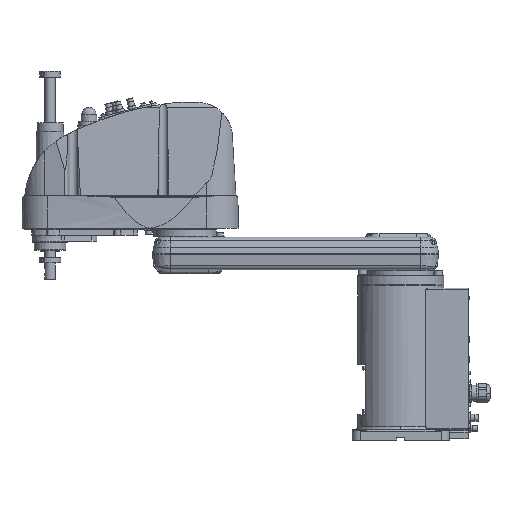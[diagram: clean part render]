
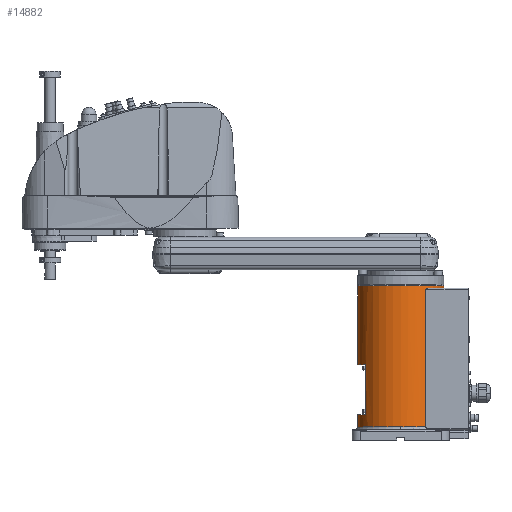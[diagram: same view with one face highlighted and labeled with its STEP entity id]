
A CAD part, top view. The second image highlights one B-rep face of the part: STEP entity #14882.
In plain terms, the highlighted cylindrical face has radius 80 mm (diameter 160 mm), a partial arc.
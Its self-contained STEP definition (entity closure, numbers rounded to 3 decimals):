
#8062 = EDGE_CURVE( '', #8162, #8850, #23895, .T. );
#8148 = EDGE_CURVE( '', #9622, #17762, #23995, .T. );
#8162 = VERTEX_POINT( '', #24010 );
#8820 = EDGE_CURVE( '', #8850, #13574, #24752, .T. );
#8850 = VERTEX_POINT( '', #24786 );
#9086 = EDGE_CURVE( '', #14868, #13366, #25050, .T. );
#9408 = EDGE_CURVE( '', #14898, #14868, #25401, .T. );
#9622 = VERTEX_POINT( '', #25642 );
#11054 = VERTEX_POINT( '', #27232 );
#12434 = EDGE_CURVE( '', #20854, #9622, #28798, .T. );
#13366 = VERTEX_POINT( '', #29838 );
#13574 = VERTEX_POINT( '', #30064 );
#13730 = EDGE_CURVE( '', #17354, #11054, #30238, .T. );
#14868 = VERTEX_POINT( '', #31506 );
#14882 = ADVANCED_FACE( '', ( #31520 ), #31521, .T. );
#14898 = VERTEX_POINT( '', #31542 );
#17060 = VERTEX_POINT( '', #33960 );
#17294 = EDGE_CURVE( '', #20854, #17060, #34217, .T. );
#17354 = VERTEX_POINT( '', #34288 );
#17762 = VERTEX_POINT( '', #34735 );
#17814 = EDGE_CURVE( '', #11054, #8162, #34797, .T. );
#17824 = EDGE_CURVE( '', #17762, #14898, #34809, .T. );
#19548 = EDGE_CURVE( '', #13574, #17060, #36740, .T. );
#20854 = VERTEX_POINT( '', #38189 );
#23274 = EDGE_CURVE( '', #13366, #17354, #40866, .T. );
#23895 = B_SPLINE_CURVE_WITH_KNOTS( '', 3, ( #41568, #41569, #41570, #41571, #41572, #41573, #41574, #41575, #41576, #41577, #41578, #41579, #41580, #41581, #41582, #41583 ), .UNSPECIFIED., .F., .F., ( 4, 2, 2, 2, 2, 2, 2, 4 ), ( 0., 0.565, 1.13, 1.695, 2.26, 4.16, 5.11, 6.06 ), .UNSPECIFIED. );
#23995 = CIRCLE( '', #41717, 80. );
#24010 = CARTESIAN_POINT( '', ( 46.637, 279., 65. ) );
#24752 = CIRCLE( '', #42873, 80. );
#24786 = CARTESIAN_POINT( '', ( 50.557, 282., 62. ) );
#25050 = LINE( '', #43402, #43403 );
#25401 = CIRCLE( '', #43909, 80. );
#25642 = CARTESIAN_POINT( '', ( -80., 140.5, 0. ) );
#27232 = CARTESIAN_POINT( '', ( 46.637, 25., 65. ) );
#28798 = LINE( '', #49019, #49020 );
#29838 = CARTESIAN_POINT( '', ( -80., 25., 0. ) );
#30064 = CARTESIAN_POINT( '', ( 80., 282., 0. ) );
#30238 = CIRCLE( '', #51205, 80. );
#31506 = CARTESIAN_POINT( '', ( -80., 47.5, 0. ) );
#31520 = FACE_OUTER_BOUND( '', #53185, .T. );
#31521 = CYLINDRICAL_SURFACE( '', #53186, 80. );
#31542 = CARTESIAN_POINT( '', ( -65., 47.5, 46.637 ) );
#33960 = CARTESIAN_POINT( '', ( 80., 286.5, 0. ) );
#34217 = CIRCLE( '', #57221, 80. );
#34288 = CARTESIAN_POINT( '', ( 0., 25., 80. ) );
#34735 = CARTESIAN_POINT( '', ( -65., 140.5, 46.637 ) );
#34797 = LINE( '', #58154, #58155 );
#34809 = LINE( '', #58172, #58173 );
#36740 = LINE( '', #61116, #61117 );
#38189 = CARTESIAN_POINT( '', ( -80., 286.5, 0. ) );
#40866 = CIRCLE( '', #67296, 80. );
#41568 = CARTESIAN_POINT( '', ( 46.637, 279., 65. ) );
#41569 = CARTESIAN_POINT( '', ( 46.637, 279.188, 65. ) );
#41570 = CARTESIAN_POINT( '', ( 46.662, 279.376, 64.982 ) );
#41571 = CARTESIAN_POINT( '', ( 46.758, 279.739, 64.913 ) );
#41572 = CARTESIAN_POINT( '', ( 46.828, 279.915, 64.863 ) );
#41573 = CARTESIAN_POINT( '', ( 47.002, 280.242, 64.736 ) );
#41574 = CARTESIAN_POINT( '', ( 47.106, 280.395, 64.661 ) );
#41575 = CARTESIAN_POINT( '', ( 47.333, 280.673, 64.495 ) );
#41576 = CARTESIAN_POINT( '', ( 47.455, 280.799, 64.405 ) );
#41577 = CARTESIAN_POINT( '', ( 47.991, 281.279, 64.009 ) );
#41578 = CARTESIAN_POINT( '', ( 48.491, 281.555, 63.632 ) );
#41579 = CARTESIAN_POINT( '', ( 49.269, 281.826, 63.029 ) );
#41580 = CARTESIAN_POINT( '', ( 49.533, 281.893, 62.822 ) );
#41581 = CARTESIAN_POINT( '', ( 50.054, 281.98, 62.407 ) );
#41582 = CARTESIAN_POINT( '', ( 50.312, 282., 62.2 ) );
#41583 = CARTESIAN_POINT( '', ( 50.557, 282., 62. ) );
#41717 = AXIS2_PLACEMENT_3D( '', #68362, #68363, #68364 );
#42873 = AXIS2_PLACEMENT_3D( '', #69262, #69263, #69264 );
#43402 = CARTESIAN_POINT( '', ( -80., 155.75, 0. ) );
#43403 = VECTOR( '', #69612, 1. );
#43909 = AXIS2_PLACEMENT_3D( '', #69986, #69987, #69988 );
#49019 = CARTESIAN_POINT( '', ( -80., 155.75, 0. ) );
#49020 = VECTOR( '', #73997, 1. );
#51205 = AXIS2_PLACEMENT_3D( '', #75639, #75640, #75641 );
#53185 = EDGE_LOOP( '', ( #77149, #77150, #77151, #77152, #77153, #77154, #77155, #77156, #77157, #77158, #77159, #77160 ) );
#53186 = AXIS2_PLACEMENT_3D( '', #77161, #77162, #77163 );
#57221 = AXIS2_PLACEMENT_3D( '', #80309, #80310, #80311 );
#58154 = CARTESIAN_POINT( '', ( 46.637, 152., 65. ) );
#58155 = VECTOR( '', #81015, 1. );
#58172 = CARTESIAN_POINT( '', ( -65., 94., 46.637 ) );
#58173 = VECTOR( '', #81034, 1. );
#61116 = CARTESIAN_POINT( '', ( 80., 155.75, 0. ) );
#61117 = VECTOR( '', #83359, 1. );
#67296 = AXIS2_PLACEMENT_3D( '', #87996, #87997, #87998 );
#68362 = CARTESIAN_POINT( '', ( 0., 140.5, 0. ) );
#68363 = DIRECTION( '', ( 0., 1., 0. ) );
#68364 = DIRECTION( '', ( 1., 0., 0. ) );
#69262 = CARTESIAN_POINT( '', ( 0., 282., 0. ) );
#69263 = DIRECTION( '', ( 0., 1., 0. ) );
#69264 = DIRECTION( '', ( 1., 0., 0. ) );
#69612 = DIRECTION( '', ( 0., -1., 0. ) );
#69986 = CARTESIAN_POINT( '', ( 0., 47.5, 0. ) );
#69987 = DIRECTION( '', ( 0., -1., 0. ) );
#69988 = DIRECTION( '', ( 1., 0., 0. ) );
#73997 = DIRECTION( '', ( 0., -1., 0. ) );
#75639 = CARTESIAN_POINT( '', ( 0., 25., 0. ) );
#75640 = DIRECTION( '', ( 0., 1., 0. ) );
#75641 = DIRECTION( '', ( 1., 0., 0. ) );
#77149 = ORIENTED_EDGE( '', *, *, #19548, .T. );
#77150 = ORIENTED_EDGE( '', *, *, #17294, .F. );
#77151 = ORIENTED_EDGE( '', *, *, #12434, .T. );
#77152 = ORIENTED_EDGE( '', *, *, #8148, .T. );
#77153 = ORIENTED_EDGE( '', *, *, #17824, .T. );
#77154 = ORIENTED_EDGE( '', *, *, #9408, .T. );
#77155 = ORIENTED_EDGE( '', *, *, #9086, .T. );
#77156 = ORIENTED_EDGE( '', *, *, #23274, .T. );
#77157 = ORIENTED_EDGE( '', *, *, #13730, .T. );
#77158 = ORIENTED_EDGE( '', *, *, #17814, .T. );
#77159 = ORIENTED_EDGE( '', *, *, #8062, .T. );
#77160 = ORIENTED_EDGE( '', *, *, #8820, .T. );
#77161 = CARTESIAN_POINT( '', ( 0., 155.75, 0. ) );
#77162 = DIRECTION( '', ( 0., -1., 0. ) );
#77163 = DIRECTION( '', ( 1., 0., 0. ) );
#80309 = CARTESIAN_POINT( '', ( 0., 286.5, 0. ) );
#80310 = DIRECTION( '', ( 0., 1., 0. ) );
#80311 = DIRECTION( '', ( 1., 0., 0. ) );
#81015 = DIRECTION( '', ( 0., 1., 0. ) );
#81034 = DIRECTION( '', ( 0., -1., 0. ) );
#83359 = DIRECTION( '', ( 0., 1., 0. ) );
#87996 = CARTESIAN_POINT( '', ( 0., 25., 0. ) );
#87997 = DIRECTION( '', ( 0., 1., 0. ) );
#87998 = DIRECTION( '', ( 1., 0., 0. ) );
